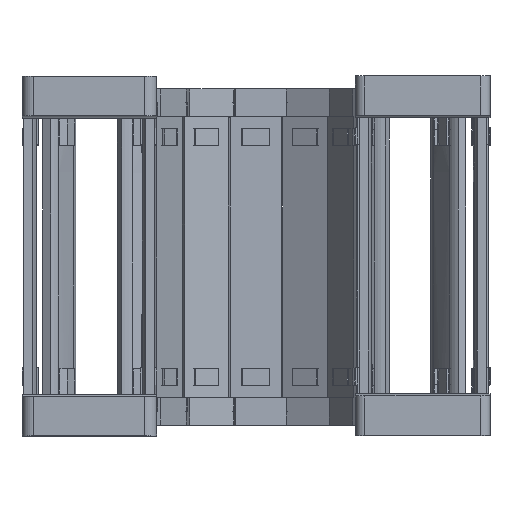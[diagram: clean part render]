
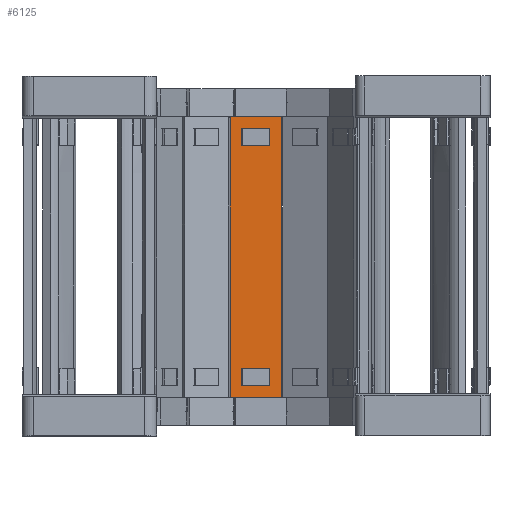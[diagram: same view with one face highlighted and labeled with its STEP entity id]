
A CAD part, top view. The second image highlights one B-rep face of the part: STEP entity #6125.
In plain terms, the highlighted planar face has unit normal (0.026, 0, 1).
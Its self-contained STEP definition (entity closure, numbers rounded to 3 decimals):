
#6125=ADVANCED_FACE('',(#25002,#25003,#25004),#8900,.F.);
#8900=PLANE('',#69244);
#13997=LINE('',#100575,#20853);
#14051=LINE('',#100734,#20907);
#14116=LINE('',#101094,#20972);
#14117=LINE('',#101096,#20973);
#14121=LINE('',#101104,#20977);
#14214=LINE('',#101405,#21070);
#14248=LINE('',#101515,#21104);
#14297=LINE('',#101839,#21153);
#14301=LINE('',#101851,#21157);
#14312=LINE('',#101876,#21168);
#14316=LINE('',#101883,#21172);
#14318=LINE('',#101887,#21174);
#14323=LINE('',#101917,#21179);
#14327=LINE('',#101927,#21183);
#14332=LINE('',#101959,#21188);
#14333=LINE('',#101960,#21189);
#14334=LINE('',#101961,#21190);
#14335=LINE('',#101963,#21191);
#20853=VECTOR('',#79300,1.);
#20907=VECTOR('',#79390,1.);
#20972=VECTOR('',#79607,1.);
#20973=VECTOR('',#79610,1.);
#20977=VECTOR('',#79616,1.);
#21070=VECTOR('',#79825,1.);
#21104=VECTOR('',#79883,1.);
#21153=VECTOR('',#80066,1.);
#21157=VECTOR('',#80076,1.);
#21168=VECTOR('',#80097,1.);
#21172=VECTOR('',#80103,1.);
#21174=VECTOR('',#80107,1.);
#21179=VECTOR('',#80120,1.);
#21183=VECTOR('',#80130,1.);
#21188=VECTOR('',#80149,1.);
#21189=VECTOR('',#80150,1.);
#21190=VECTOR('',#80151,1.);
#21191=VECTOR('',#80152,1.);
#25002=FACE_BOUND('',#26769,.T.);
#25003=FACE_BOUND('',#26770,.T.);
#25004=FACE_BOUND('',#26771,.T.);
#26769=EDGE_LOOP('',(#37878,#37879,#37880,#37881,#37882,#37883));
#26770=EDGE_LOOP('',(#37884,#37885,#37886,#37887,#37888,#37889));
#26771=EDGE_LOOP('',(#37890,#37891,#37892,#37893,#37894,#37895));
#37878=ORIENTED_EDGE('',*,*,#59926,.T.);
#37879=ORIENTED_EDGE('',*,*,#59874,.F.);
#37880=ORIENTED_EDGE('',*,*,#59741,.F.);
#37881=ORIENTED_EDGE('',*,*,#59898,.F.);
#37882=ORIENTED_EDGE('',*,*,#59431,.F.);
#37883=ORIENTED_EDGE('',*,*,#59608,.F.);
#37884=ORIENTED_EDGE('',*,*,#59927,.F.);
#37885=ORIENTED_EDGE('',*,*,#59908,.T.);
#37886=ORIENTED_EDGE('',*,*,#59896,.T.);
#37887=ORIENTED_EDGE('',*,*,#59880,.F.);
#37888=ORIENTED_EDGE('',*,*,#59783,.F.);
#37889=ORIENTED_EDGE('',*,*,#59913,.F.);
#37890=ORIENTED_EDGE('',*,*,#59609,.F.);
#37891=ORIENTED_EDGE('',*,*,#59892,.T.);
#37892=ORIENTED_EDGE('',*,*,#59928,.T.);
#37893=ORIENTED_EDGE('',*,*,#59929,.F.);
#37894=ORIENTED_EDGE('',*,*,#59613,.F.);
#37895=ORIENTED_EDGE('',*,*,#59497,.F.);
#51365=VERTEX_POINT('',#100574);
#51366=VERTEX_POINT('',#100576);
#51392=VERTEX_POINT('',#100658);
#51418=VERTEX_POINT('',#100721);
#51483=VERTEX_POINT('',#101093);
#51484=VERTEX_POINT('',#101097);
#51487=VERTEX_POINT('',#101105);
#51574=VERTEX_POINT('',#101404);
#51575=VERTEX_POINT('',#101406);
#51595=VERTEX_POINT('',#101477);
#51609=VERTEX_POINT('',#101507);
#51661=VERTEX_POINT('',#101840);
#51666=VERTEX_POINT('',#101852);
#51674=VERTEX_POINT('',#101875);
#51677=VERTEX_POINT('',#101884);
#51683=VERTEX_POINT('',#101918);
#51685=VERTEX_POINT('',#101926);
#51690=VERTEX_POINT('',#101962);
#59431=EDGE_CURVE('',#51365,#51366,#13997,.T.);
#59497=EDGE_CURVE('',#51418,#51392,#14051,.T.);
#59608=EDGE_CURVE('',#51483,#51365,#14116,.T.);
#59609=EDGE_CURVE('',#51484,#51418,#14117,.T.);
#59613=EDGE_CURVE('',#51392,#51487,#14121,.T.);
#59741=EDGE_CURVE('',#51574,#51575,#14214,.T.);
#59783=EDGE_CURVE('',#51595,#51609,#14248,.T.);
#59874=EDGE_CURVE('',#51575,#51661,#14297,.T.);
#59880=EDGE_CURVE('',#51609,#51666,#14301,.T.);
#59892=EDGE_CURVE('',#51484,#51674,#14312,.T.);
#59896=EDGE_CURVE('',#51677,#51666,#14316,.T.);
#59898=EDGE_CURVE('',#51366,#51574,#14318,.T.);
#59908=EDGE_CURVE('',#51683,#51677,#14323,.T.);
#59913=EDGE_CURVE('',#51685,#51595,#14327,.T.);
#59926=EDGE_CURVE('',#51483,#51661,#14332,.T.);
#59927=EDGE_CURVE('',#51683,#51685,#14333,.T.);
#59928=EDGE_CURVE('',#51674,#51690,#14334,.T.);
#59929=EDGE_CURVE('',#51487,#51690,#14335,.T.);
#69244=AXIS2_PLACEMENT_3D('',#101964,#80153,#80154);
#79300=DIRECTION('',(1.,0.,-0.026));
#79390=DIRECTION('',(-1.,0.,0.026));
#79607=DIRECTION('',(1.,0.,-0.026));
#79610=DIRECTION('',(-1.,0.,0.026));
#79616=DIRECTION('',(-1.,0.,0.026));
#79825=DIRECTION('',(-1.,0.,0.026));
#79883=DIRECTION('',(1.,0.,-0.026));
#80066=DIRECTION('',(-1.,0.,0.026));
#80076=DIRECTION('',(1.,0.,-0.026));
#80097=DIRECTION('',(0.,-1.,0.));
#80103=DIRECTION('',(0.,-1.,0.));
#80107=DIRECTION('',(0.,-1.,0.));
#80120=DIRECTION('',(1.,0.,-0.026));
#80130=DIRECTION('',(1.,0.,-0.026));
#80149=DIRECTION('',(0.,-1.,0.));
#80150=DIRECTION('',(0.,-1.,0.));
#80151=DIRECTION('',(-1.,0.,0.026));
#80152=DIRECTION('',(0.,-1.,0.));
#80153=DIRECTION('',(-0.026,0.,-1.));
#80154=DIRECTION('',(1.,0.,-0.026));
#100574=CARTESIAN_POINT('',(379.153,34.434,750.093));
#100575=CARTESIAN_POINT('',(378.817,34.434,750.102));
#100576=CARTESIAN_POINT('',(389.214,34.434,749.83));
#100658=CARTESIAN_POINT('',(380.87,31.822,750.048));
#100721=CARTESIAN_POINT('',(386.562,31.822,749.899));
#100734=CARTESIAN_POINT('',(386.736,31.822,749.895));
#101093=CARTESIAN_POINT('',(378.217,34.434,750.118));
#101094=CARTESIAN_POINT('',(378.817,34.434,750.102));
#101096=CARTESIAN_POINT('',(386.736,31.822,749.895));
#101097=CARTESIAN_POINT('',(386.736,31.822,749.895));
#101104=CARTESIAN_POINT('',(386.736,31.822,749.895));
#101105=CARTESIAN_POINT('',(380.695,31.822,750.053));
#101404=CARTESIAN_POINT('',(389.214,-26.066,749.83));
#101405=CARTESIAN_POINT('',(378.817,-26.066,750.102));
#101406=CARTESIAN_POINT('',(379.153,-26.066,750.093));
#101477=CARTESIAN_POINT('',(380.87,-23.455,750.048));
#101507=CARTESIAN_POINT('',(386.562,-23.455,749.899));
#101515=CARTESIAN_POINT('',(386.736,-23.455,749.895));
#101839=CARTESIAN_POINT('',(378.817,-26.066,750.102));
#101840=CARTESIAN_POINT('',(378.217,-26.066,750.118));
#101851=CARTESIAN_POINT('',(386.736,-23.455,749.895));
#101852=CARTESIAN_POINT('',(386.736,-23.455,749.895));
#101875=CARTESIAN_POINT('',(386.736,28.15,749.895));
#101876=CARTESIAN_POINT('',(386.736,46.919,749.895));
#101883=CARTESIAN_POINT('',(386.736,-38.552,749.895));
#101884=CARTESIAN_POINT('',(386.736,-19.782,749.895));
#101887=CARTESIAN_POINT('',(389.214,-33.552,749.83));
#101917=CARTESIAN_POINT('',(386.736,-19.782,749.895));
#101918=CARTESIAN_POINT('',(380.695,-19.782,750.053));
#101926=CARTESIAN_POINT('',(380.695,-23.455,750.053));
#101927=CARTESIAN_POINT('',(386.736,-23.455,749.895));
#101959=CARTESIAN_POINT('',(378.217,-33.552,750.118));
#101960=CARTESIAN_POINT('',(380.695,-38.552,750.053));
#101961=CARTESIAN_POINT('',(386.736,28.15,749.895));
#101962=CARTESIAN_POINT('',(380.695,28.15,750.053));
#101963=CARTESIAN_POINT('',(380.695,46.919,750.053));
#101964=CARTESIAN_POINT('',(376.74,-33.552,750.156));
